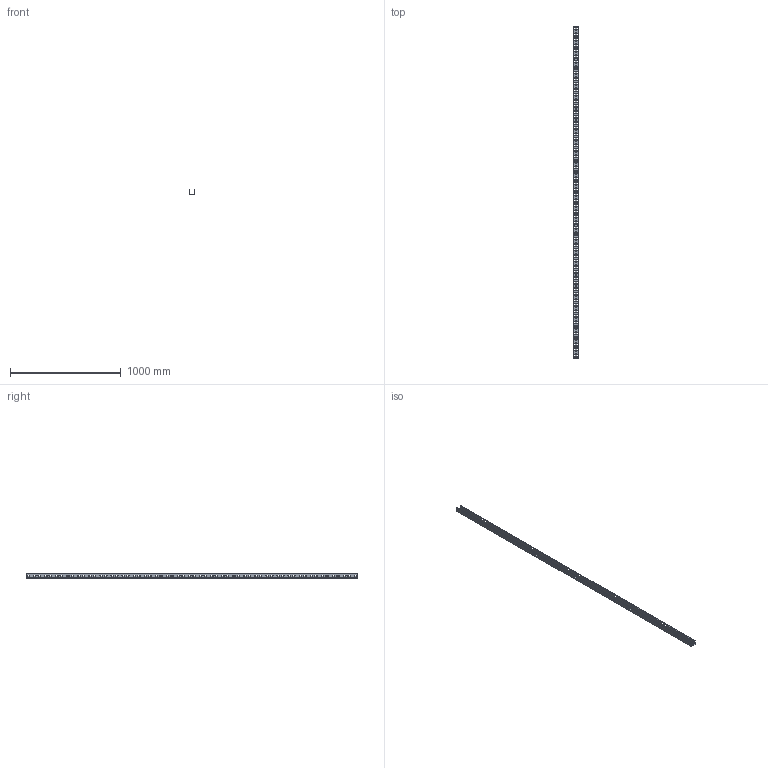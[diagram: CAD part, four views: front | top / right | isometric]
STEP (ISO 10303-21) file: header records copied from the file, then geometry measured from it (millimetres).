
FILE_DESCRIPTION(/* description */ (''),/* implementation_level */ '2;1');
FILE_NAME(/* name */ 'GE-KT2-5-A40.step',/* time_stamp */ '2025-04-02T09:10:42+03:00',/* author */ (''),/* organization */ (''),/* preprocessor_version */ 'ST-DEVELOPER v20.1',/* originating_system */ 'Autodesk Translation Framework v14.4.0.0',/* authorisation */ '');
FILE_SCHEMA (('AUTOMOTIVE_DESIGN { 1 0 10303 214 3 1 1 }'));
Length unit declared in the file: millimetre
Products named in the file (1): GE-KT2-5-A40-son hali
Bounding box: 50 x 3000 x 40 mm (x, y, z)
Volume: 364428.8 mm3; surface area: 751099.9 mm2
Topology: 1 solids, 1 shells, 1100 faces, 3294 edges, 2196 vertices
Faces by surface type: plane 554, cylinder 546
Entity records: 38463 total; most frequent: CARTESIAN_POINT 6591, ORIENTED_EDGE 6588, DIRECTION 6588, EDGE_CURVE 3294, LINE 2202, VECTOR 2202, VERTEX_POINT 2196, AXIS2_PLACEMENT_3D 2193
